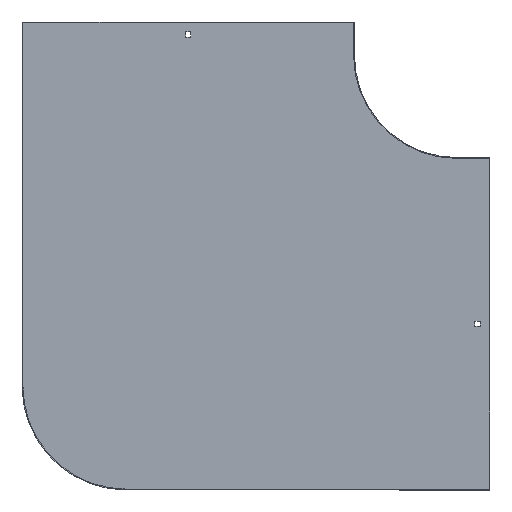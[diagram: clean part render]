
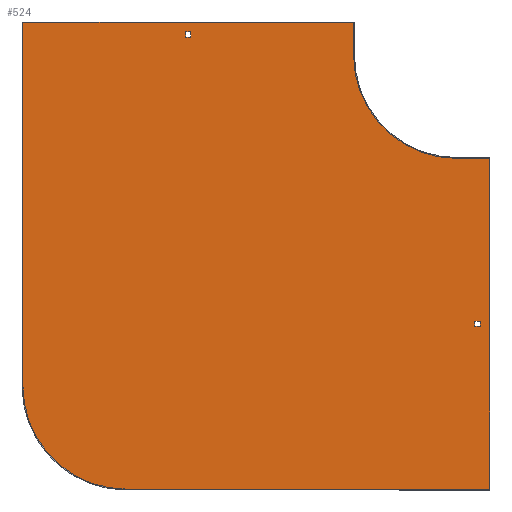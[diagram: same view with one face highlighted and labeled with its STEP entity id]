
A CAD part, front view. The second image highlights one B-rep face of the part: STEP entity #524.
In plain terms, the highlighted planar face has unit normal (0, -1, 0).
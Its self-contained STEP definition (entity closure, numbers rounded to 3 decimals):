
#4 = ORIENTED_EDGE ( 'NONE', *, *, #359, .F. ) ;
#10 = VERTEX_POINT ( 'NONE', #482 ) ;
#20 = ORIENTED_EDGE ( 'NONE', *, *, #383, .F. ) ;
#31 = VERTEX_POINT ( 'NONE', #635 ) ;
#40 = DIRECTION ( 'NONE',  ( 1., 0., 0. ) ) ;
#41 = CARTESIAN_POINT ( 'NONE',  ( -322., -1., 0. ) ) ;
#43 = VECTOR ( 'NONE', #244, 1000. ) ;
#46 = CARTESIAN_POINT ( 'NONE',  ( -322., -1., 21.5 ) ) ;
#51 = DIRECTION ( 'NONE',  ( 0., 0., -1. ) ) ;
#65 = EDGE_CURVE ( 'NONE', #205, #31, #751, .T. ) ;
#73 = VERTEX_POINT ( 'NONE', #569 ) ;
#75 = DIRECTION ( 'NONE',  ( 0., 0., -1. ) ) ;
#77 = CARTESIAN_POINT ( 'NONE',  ( 0., -1., 28.5 ) ) ;
#78 = CARTESIAN_POINT ( 'NONE',  ( -525., -1., 40. ) ) ;
#92 = CARTESIAN_POINT ( 'NONE',  ( 0., -1., 0. ) ) ;
#100 = DIRECTION ( 'NONE',  ( 1., 0., 0. ) ) ;
#102 = LINE ( 'NONE', #840, #782 ) ;
#104 = CARTESIAN_POINT ( 'NONE',  ( -322., -1., 28.5 ) ) ;
#107 = CARTESIAN_POINT ( 'NONE',  ( -526., -1., 40. ) ) ;
#108 = DIRECTION ( 'NONE',  ( 0., 0., -1. ) ) ;
#120 = VERTEX_POINT ( 'NONE', #837 ) ;
#126 = CARTESIAN_POINT ( 'NONE',  ( 21.5, -1., 0. ) ) ;
#137 = VECTOR ( 'NONE', #40, 1000. ) ;
#147 = ORIENTED_EDGE ( 'NONE', *, *, #646, .T. ) ;
#159 = EDGE_CURVE ( 'NONE', #168, #187, #301, .T. ) ;
#168 = VERTEX_POINT ( 'NONE', #104 ) ;
#172 = CARTESIAN_POINT ( 'NONE',  ( 0., -1., -322. ) ) ;
#187 = VERTEX_POINT ( 'NONE', #46 ) ;
#191 = ORIENTED_EDGE ( 'NONE', *, *, #270, .F. ) ;
#201 = VERTEX_POINT ( 'NONE', #254 ) ;
#205 = VERTEX_POINT ( 'NONE', #846 ) ;
#208 = LINE ( 'NONE', #727, #548 ) ;
#209 = ORIENTED_EDGE ( 'NONE', *, *, #315, .F. ) ;
#219 = EDGE_LOOP ( 'NONE', ( #319, #413, #679, #147 ) ) ;
#226 = CIRCLE ( 'NONE', #717, 125. ) ;
#232 = CARTESIAN_POINT ( 'NONE',  ( 0., -1., -328. ) ) ;
#234 = CARTESIAN_POINT ( 'NONE',  ( 0., -1., 0. ) ) ;
#237 = EDGE_CURVE ( 'NONE', #742, #834, #776, .T. ) ;
#244 = DIRECTION ( 'NONE',  ( 0., 0., -1. ) ) ;
#248 = LINE ( 'NONE', #634, #43 ) ;
#252 = FACE_BOUND ( 'NONE', #219, .T. ) ;
#254 = CARTESIAN_POINT ( 'NONE',  ( -328., -1., 21.5 ) ) ;
#261 = CARTESIAN_POINT ( 'NONE',  ( 28.5, -1., -322. ) ) ;
#266 = CARTESIAN_POINT ( 'NONE',  ( 0., -1., 21.5 ) ) ;
#267 = DIRECTION ( 'NONE',  ( 0., 0., -1. ) ) ;
#270 = EDGE_CURVE ( 'NONE', #120, #314, #381, .T. ) ;
#301 = LINE ( 'NONE', #41, #590 ) ;
#314 = VERTEX_POINT ( 'NONE', #596 ) ;
#315 = EDGE_CURVE ( 'NONE', #834, #205, #735, .T. ) ;
#317 = DIRECTION ( 'NONE',  ( -1., 0., 0. ) ) ;
#319 = ORIENTED_EDGE ( 'NONE', *, *, #766, .T. ) ;
#331 = DIRECTION ( 'NONE',  ( 0., 0., 1. ) ) ;
#345 = DIRECTION ( 'NONE',  ( 0., 1., 0. ) ) ;
#348 = VERTEX_POINT ( 'NONE', #78 ) ;
#359 = EDGE_CURVE ( 'NONE', #31, #742, #208, .T. ) ;
#360 = DIRECTION ( 'NONE',  ( 0., 0., -1. ) ) ;
#370 = CARTESIAN_POINT ( 'NONE',  ( 40., -1., -125. ) ) ;
#380 = CARTESIAN_POINT ( 'NONE',  ( 21.5, -1., -322. ) ) ;
#381 = LINE ( 'NONE', #651, #450 ) ;
#383 = EDGE_CURVE ( 'NONE', #73, #701, #576, .T. ) ;
#390 = ORIENTED_EDGE ( 'NONE', *, *, #529, .F. ) ;
#397 = LINE ( 'NONE', #266, #811 ) ;
#411 = DIRECTION ( 'NONE',  ( 1., 0., 0. ) ) ;
#413 = ORIENTED_EDGE ( 'NONE', *, *, #159, .T. ) ;
#425 = EDGE_CURVE ( 'NONE', #429, #843, #810, .T. ) ;
#426 = ORIENTED_EDGE ( 'NONE', *, *, #463, .F. ) ;
#429 = VERTEX_POINT ( 'NONE', #496 ) ;
#433 = AXIS2_PLACEMENT_3D ( 'NONE', #234, #520, #702 ) ;
#438 = FACE_OUTER_BOUND ( 'NONE', #472, .T. ) ;
#443 = DIRECTION ( 'NONE',  ( -1., 0., 0. ) ) ;
#450 = VECTOR ( 'NONE', #51, 1000. ) ;
#451 = PLANE ( 'NONE',  #433 ) ;
#463 = EDGE_CURVE ( 'NONE', #314, #429, #226, .T. ) ;
#466 = VECTOR ( 'NONE', #75, 1000. ) ;
#472 = EDGE_LOOP ( 'NONE', ( #781, #390, #20, #803, #661, #664, #426, #191 ) ) ;
#482 = CARTESIAN_POINT ( 'NONE',  ( 40., -1., -525. ) ) ;
#496 = CARTESIAN_POINT ( 'NONE',  ( 0., -1., -125. ) ) ;
#500 = VECTOR ( 'NONE', #317, 1000. ) ;
#501 = FACE_BOUND ( 'NONE', #504, .T. ) ;
#502 = VECTOR ( 'NONE', #411, 1000. ) ;
#504 = EDGE_LOOP ( 'NONE', ( #580, #4, #608, #209 ) ) ;
#512 = CARTESIAN_POINT ( 'NONE',  ( -328., -1., 28.5 ) ) ;
#520 = DIRECTION ( 'NONE',  ( 0., -1., 0. ) ) ;
#524 = ADVANCED_FACE ( 'NONE', ( #501, #438, #252 ), #451, .T. ) ;
#527 = CARTESIAN_POINT ( 'NONE',  ( 0., -1., -125. ) ) ;
#529 = EDGE_CURVE ( 'NONE', #701, #348, #102, .T. ) ;
#535 = DIRECTION ( 'NONE',  ( 0., 0., 1. ) ) ;
#538 = VECTOR ( 'NONE', #551, 1000. ) ;
#546 = LINE ( 'NONE', #77, #502 ) ;
#548 = VECTOR ( 'NONE', #331, 1000. ) ;
#551 = DIRECTION ( 'NONE',  ( 1., 0., 0. ) ) ;
#568 = LINE ( 'NONE', #107, #137 ) ;
#569 = CARTESIAN_POINT ( 'NONE',  ( -400., -1., -525. ) ) ;
#576 = CIRCLE ( 'NONE', #771, 125. ) ;
#580 = ORIENTED_EDGE ( 'NONE', *, *, #237, .F. ) ;
#582 = DIRECTION ( 'NONE',  ( 0., 0., 1. ) ) ;
#590 = VECTOR ( 'NONE', #108, 1000. ) ;
#595 = CARTESIAN_POINT ( 'NONE',  ( -525., -1., -400. ) ) ;
#596 = CARTESIAN_POINT ( 'NONE',  ( -125., -1., 0. ) ) ;
#608 = ORIENTED_EDGE ( 'NONE', *, *, #65, .F. ) ;
#609 = CARTESIAN_POINT ( 'NONE',  ( -328., -1., 0. ) ) ;
#617 = DIRECTION ( 'NONE',  ( 0., -1., 0. ) ) ;
#634 = CARTESIAN_POINT ( 'NONE',  ( 40., -1., -124. ) ) ;
#635 = CARTESIAN_POINT ( 'NONE',  ( 28.5, -1., -328. ) ) ;
#646 = EDGE_CURVE ( 'NONE', #201, #830, #801, .T. ) ;
#651 = CARTESIAN_POINT ( 'NONE',  ( -125., -1., 40. ) ) ;
#661 = ORIENTED_EDGE ( 'NONE', *, *, #825, .F. ) ;
#664 = ORIENTED_EDGE ( 'NONE', *, *, #425, .F. ) ;
#679 = ORIENTED_EDGE ( 'NONE', *, *, #748, .T. ) ;
#688 = VECTOR ( 'NONE', #443, 1000. ) ;
#697 = VECTOR ( 'NONE', #535, 1000. ) ;
#701 = VERTEX_POINT ( 'NONE', #595 ) ;
#702 = DIRECTION ( 'NONE',  ( 0., 0., -1. ) ) ;
#717 = AXIS2_PLACEMENT_3D ( 'NONE', #92, #617, #360 ) ;
#727 = CARTESIAN_POINT ( 'NONE',  ( 28.5, -1., 0. ) ) ;
#735 = LINE ( 'NONE', #126, #466 ) ;
#740 = CARTESIAN_POINT ( 'NONE',  ( -400., -1., -400. ) ) ;
#742 = VERTEX_POINT ( 'NONE', #261 ) ;
#748 = EDGE_CURVE ( 'NONE', #187, #201, #397, .T. ) ;
#751 = LINE ( 'NONE', #232, #856 ) ;
#766 = EDGE_CURVE ( 'NONE', #830, #168, #546, .T. ) ;
#771 = AXIS2_PLACEMENT_3D ( 'NONE', #740, #345, #267 ) ;
#776 = LINE ( 'NONE', #172, #688 ) ;
#781 = ORIENTED_EDGE ( 'NONE', *, *, #848, .F. ) ;
#782 = VECTOR ( 'NONE', #582, 1000. ) ;
#801 = LINE ( 'NONE', #609, #697 ) ;
#803 = ORIENTED_EDGE ( 'NONE', *, *, #860, .F. ) ;
#804 = DIRECTION ( 'NONE',  ( -1., 0., 0. ) ) ;
#810 = LINE ( 'NONE', #527, #538 ) ;
#811 = VECTOR ( 'NONE', #804, 1000. ) ;
#825 = EDGE_CURVE ( 'NONE', #843, #10, #248, .T. ) ;
#830 = VERTEX_POINT ( 'NONE', #512 ) ;
#834 = VERTEX_POINT ( 'NONE', #380 ) ;
#836 = LINE ( 'NONE', #850, #500 ) ;
#837 = CARTESIAN_POINT ( 'NONE',  ( -125., -1., 40. ) ) ;
#840 = CARTESIAN_POINT ( 'NONE',  ( -525., -1., -400. ) ) ;
#843 = VERTEX_POINT ( 'NONE', #370 ) ;
#846 = CARTESIAN_POINT ( 'NONE',  ( 21.5, -1., -328. ) ) ;
#848 = EDGE_CURVE ( 'NONE', #348, #120, #568, .T. ) ;
#850 = CARTESIAN_POINT ( 'NONE',  ( 40., -1., -525. ) ) ;
#856 = VECTOR ( 'NONE', #100, 1000. ) ;
#860 = EDGE_CURVE ( 'NONE', #10, #73, #836, .T. ) ;
